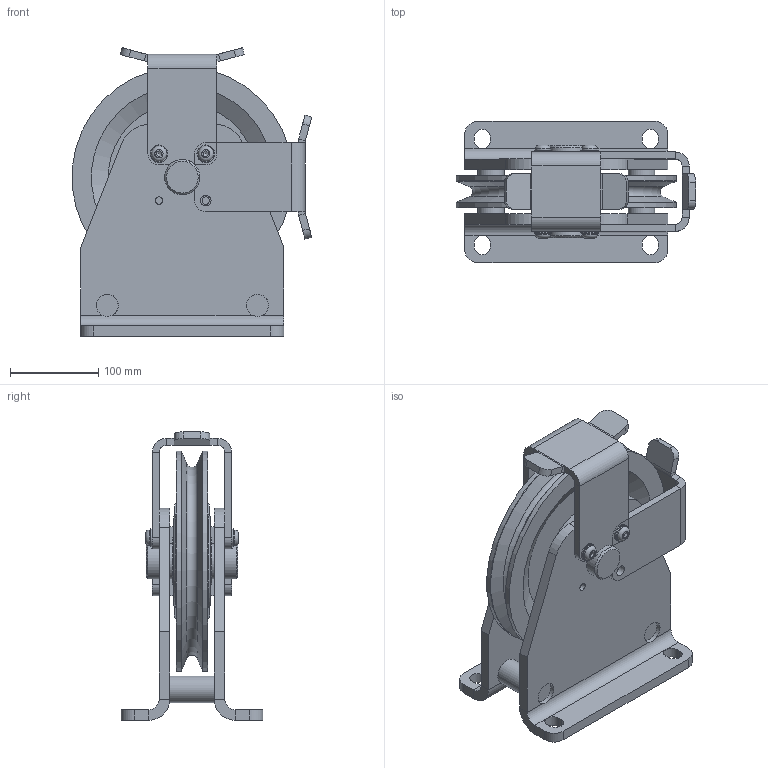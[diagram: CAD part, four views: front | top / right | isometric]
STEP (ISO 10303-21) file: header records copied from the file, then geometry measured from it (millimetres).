
FILE_DESCRIPTION(/* description */ ('Seilrollenbock Seilniederhalter ø250 Stahl Gleitlager komplett'),/* implementation_level */ '2;1');
FILE_NAME(/* name */ 'Z:\Workspace\03 Seilrollen\1.406 Seilrollenbock Seilniederhalter Gleitlager\1.406.07 Seilrollenbock Seilniederhalter ø250 Stahl Gleitlager\1.406.07 Seilrollenbock Seilniederhalter ø250 Stahl Gleitlager komplett.stp',/* time_stamp */ '2021-10-08T12:25:23+02:00',/* author */ ('cad-user'),/* organization */ (''),/* preprocessor_version */ 'ST-DEVELOPER v18',/* originating_system */ 'Autodesk Inventor 2020',/* authorisation */ '');
FILE_SCHEMA (('AUTOMOTIVE_DESIGN { 1 0 10303 214 3 1 1 }'));
Length unit declared in the file: millimetre
Products named in the file (12): 1.406.07 Seilrollenbock Seilniederhalter ø250 Stahl Gleitlager ko
mplett; 1.405.07.01 Seilrollenbock Schweißteil; 1.405.07.01 Blech; 1.405.07.01 Distanzachse; 1.401.07 Seilrolle ø250 Buchse komplett; 1.401.07 Seilrolle ø250 Buchse; Bundbuchse BB4044-16-DU; Bundbuchse BB4044-26-DU; 1.405.07.02 Achse; DIN 125-1 - B 10,5; ISO 7380 - M10 x 20; 1.406.07.03 Seilniederhalter ø250
Assembly tree (20 placements, depth 3):
  1.406.07 Seilrollenbock Seilniederhalter ø250 Stahl Gleitlager ko
mplett
    1.405.07.01 Seilrollenbock Schweißteil
      1.405.07.01 Blech  x2
      1.405.07.01 Distanzachse  x2
    1.401.07 Seilrolle ø250 Buchse komplett
      1.401.07 Seilrolle ø250 Buchse
      Bundbuchse BB4044-16-DU
      Bundbuchse BB4044-26-DU
    1.405.07.02 Achse
    DIN 125-1 - B 10,5  x4
    ISO 7380 - M10 x 20  x4
    1.406.07.03 Seilniederhalter ø250  x2
Bounding box: 271.08 x 160 x 326.49 mm (x, y, z)
Volume: 3024116.8 mm3; surface area: 571873.9 mm2
Topology: 18 solids, 18 shells, 325 faces, 831 edges, 534 vertices
Faces by surface type: plane 180, cylinder 108, cone 24, torus 13
Full cylindrical faces by diameter (mm): 8.376 x8, 10 x4, 10.5 x4, 12 x8, 17.5 x4, 20 x4, 25 x8, 30 x2, 40 x5, 44 x1, 105 x2, 250 x2
Entity records: 5825 total; most frequent: CARTESIAN_POINT 1014, DIRECTION 1009, ORIENTED_EDGE 866, EDGE_CURVE 433, AXIS2_PLACEMENT_3D 394, VERTEX_POINT 278, LINE 221, VECTOR 221
